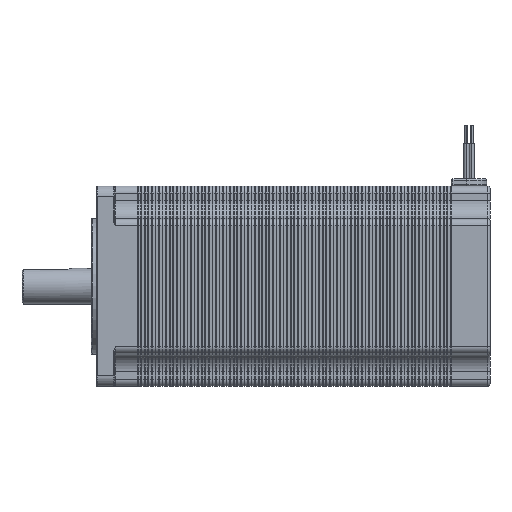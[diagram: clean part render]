
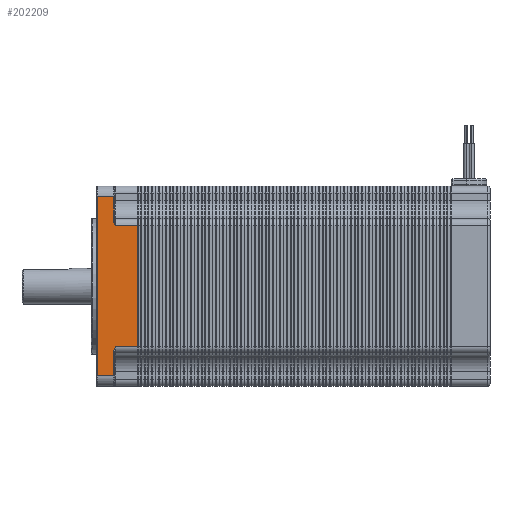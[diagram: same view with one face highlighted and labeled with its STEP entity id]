
A CAD part, left-side view. The second image highlights one B-rep face of the part: STEP entity #202209.
In plain terms, the highlighted planar face has unit normal (-1, 0, 0).
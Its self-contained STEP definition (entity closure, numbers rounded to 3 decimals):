
#913 = CARTESIAN_POINT ( 'NONE',  ( -28.15, 105.395, -17.201 ) ) ;
#925 = CARTESIAN_POINT ( 'NONE',  ( -28.15, 110.5, -17. ) ) ;
#3800 = EDGE_CURVE ( 'NONE', #151138, #277199, #98246, .T. ) ;
#4494 = VECTOR ( 'NONE', #135481, 1000. ) ;
#15551 = EDGE_LOOP ( 'NONE', ( #176855, #21113, #151258, #217544, #167272, #176024, #137371, #258294, #31913, #245938 ) ) ;
#17608 = EDGE_CURVE ( 'NONE', #166091, #71965, #167149, .T. ) ;
#17987 = CARTESIAN_POINT ( 'NONE',  ( -28.15, 110.3, -25.15 ) ) ;
#21113 = ORIENTED_EDGE ( 'NONE', *, *, #117692, .T. ) ;
#26198 = DIRECTION ( 'NONE',  ( 0., 0., 1. ) ) ;
#29123 = DIRECTION ( 'NONE',  ( 0., 1., 0. ) ) ;
#31384 = CARTESIAN_POINT ( 'NONE',  ( -28.15, 105.7, 18.265 ) ) ;
#31889 = VECTOR ( 'NONE', #187315, 1000. ) ;
#31913 = ORIENTED_EDGE ( 'NONE', *, *, #232522, .T. ) ;
#35425 = CARTESIAN_POINT ( 'NONE',  ( -28.15, 110.3, -25.15 ) ) ;
#44824 = CARTESIAN_POINT ( 'NONE',  ( -28.15, 105.3, 17. ) ) ;
#53144 = LINE ( 'NONE', #159765, #31889 ) ;
#56626 = LINE ( 'NONE', #146499, #145663 ) ;
#57079 = VECTOR ( 'NONE', #29123, 1000. ) ;
#62087 = DIRECTION ( 'NONE',  ( 0., 0., 1. ) ) ;
#69804 = CARTESIAN_POINT ( 'NONE',  ( -28.15, 105.7, 18.265 ) ) ;
#71965 = VERTEX_POINT ( 'NONE', #132776 ) ;
#92245 = CARTESIAN_POINT ( 'NONE',  ( -28.15, 105.7, -18.04 ) ) ;
#92422 = DIRECTION ( 'NONE',  ( 0., 0., -1. ) ) ;
#96186 = VERTEX_POINT ( 'NONE', #105990 ) ;
#96836 = DIRECTION ( 'NONE',  ( 1., 0., 0. ) ) ;
#98246 = LINE ( 'NONE', #273777, #258212 ) ;
#101591 = EDGE_CURVE ( 'NONE', #243100, #181336, #175595, .T. ) ;
#105990 = CARTESIAN_POINT ( 'NONE',  ( -28.15, 105.3, 17. ) ) ;
#112501 = AXIS2_PLACEMENT_3D ( 'NONE', #133759, #96836, #92422 ) ;
#117692 = EDGE_CURVE ( 'NONE', #223409, #181336, #237491, .T. ) ;
#125276 = DIRECTION ( 'NONE',  ( 0., 0., -1. ) ) ;
#129058 = CARTESIAN_POINT ( 'NONE',  ( -28.15, 99.1, -17. ) ) ;
#129754 = LINE ( 'NONE', #175618, #158802 ) ;
#131817 = CARTESIAN_POINT ( 'NONE',  ( -28.15, 105.642, 17.823 ) ) ;
#132140 = CARTESIAN_POINT ( 'NONE',  ( -28.15, 105.7, -18.265 ) ) ;
#132776 = CARTESIAN_POINT ( 'NONE',  ( -28.15, 105.3, -17. ) ) ;
#133759 = CARTESIAN_POINT ( 'NONE',  ( -28.15, 110.5, -17. ) ) ;
#135481 = DIRECTION ( 'NONE',  ( 0., 1., 0. ) ) ;
#137371 = ORIENTED_EDGE ( 'NONE', *, *, #3800, .T. ) ;
#141035 = CARTESIAN_POINT ( 'NONE',  ( -28.15, 105.5, 25.15 ) ) ;
#145663 = VECTOR ( 'NONE', #26198, 1000. ) ;
#146499 = CARTESIAN_POINT ( 'NONE',  ( -28.15, 105.7, -17. ) ) ;
#151138 = VERTEX_POINT ( 'NONE', #129058 ) ;
#151258 = ORIENTED_EDGE ( 'NONE', *, *, #101591, .F. ) ;
#158802 = VECTOR ( 'NONE', #62087, 1000. ) ;
#159548 = EDGE_CURVE ( 'NONE', #243100, #166091, #56626, .T. ) ;
#159765 = CARTESIAN_POINT ( 'NONE',  ( -28.15, 110.5, 17. ) ) ;
#161705 = DIRECTION ( 'NONE',  ( 0., 0., 1. ) ) ;
#165544 = VECTOR ( 'NONE', #180852, 1000. ) ;
#166091 = VERTEX_POINT ( 'NONE', #245045 ) ;
#167149 = B_SPLINE_CURVE_WITH_KNOTS ( 'NONE', 3,
 ( #132140, #92245, #269324, #248727, #913, #222228 ),
 .UNSPECIFIED., .F., .F.,
 ( 4, 2, 4 ),
 ( 0., 0.001, 0.001 ),
 .UNSPECIFIED. ) ;
#167272 = ORIENTED_EDGE ( 'NONE', *, *, #17608, .T. ) ;
#175595 = LINE ( 'NONE', #178464, #4494 ) ;
#175618 = CARTESIAN_POINT ( 'NONE',  ( -28.15, 105.7, -17. ) ) ;
#176024 = ORIENTED_EDGE ( 'NONE', *, *, #200480, .T. ) ;
#176855 = ORIENTED_EDGE ( 'NONE', *, *, #186906, .T. ) ;
#177613 = CARTESIAN_POINT ( 'NONE',  ( -28.15, 105.7, 18.04 ) ) ;
#178464 = CARTESIAN_POINT ( 'NONE',  ( -28.15, 105.5, -25.15 ) ) ;
#180511 = CARTESIAN_POINT ( 'NONE',  ( -28.15, 105.395, 17.202 ) ) ;
#180852 = DIRECTION ( 'NONE',  ( 0., -1., 0. ) ) ;
#181026 = FACE_OUTER_BOUND ( 'NONE', #15551, .T. ) ;
#181336 = VERTEX_POINT ( 'NONE', #17987 ) ;
#186906 = EDGE_CURVE ( 'NONE', #291127, #223409, #211858, .T. ) ;
#187315 = DIRECTION ( 'NONE',  ( 0., -1., 0. ) ) ;
#193724 = VECTOR ( 'NONE', #125276, 1000. ) ;
#197797 = EDGE_CURVE ( 'NONE', #272984, #291127, #129754, .T. ) ;
#200480 = EDGE_CURVE ( 'NONE', #71965, #151138, #242910, .T. ) ;
#202209 = ADVANCED_FACE ( 'NONE', ( #181026 ), #288645, .F. ) ;
#209774 = B_SPLINE_CURVE_WITH_KNOTS ( 'NONE', 3,
 ( #44824, #180511, #290980, #131817, #177613, #69804 ),
 .UNSPECIFIED., .F., .F.,
 ( 4, 2, 4 ),
 ( 0., 0.001, 0.001 ),
 .UNSPECIFIED. ) ;
#211858 = LINE ( 'NONE', #141035, #57079 ) ;
#217544 = ORIENTED_EDGE ( 'NONE', *, *, #159548, .T. ) ;
#222228 = CARTESIAN_POINT ( 'NONE',  ( -28.15, 105.3, -17. ) ) ;
#223409 = VERTEX_POINT ( 'NONE', #224881 ) ;
#224881 = CARTESIAN_POINT ( 'NONE',  ( -28.15, 110.3, 25.15 ) ) ;
#230524 = CARTESIAN_POINT ( 'NONE',  ( -28.15, 105.7, 25.15 ) ) ;
#232522 = EDGE_CURVE ( 'NONE', #96186, #272984, #209774, .T. ) ;
#235208 = EDGE_CURVE ( 'NONE', #96186, #277199, #53144, .T. ) ;
#237491 = LINE ( 'NONE', #35425, #193724 ) ;
#242910 = LINE ( 'NONE', #925, #165544 ) ;
#243100 = VERTEX_POINT ( 'NONE', #291837 ) ;
#245045 = CARTESIAN_POINT ( 'NONE',  ( -28.15, 105.7, -18.265 ) ) ;
#245938 = ORIENTED_EDGE ( 'NONE', *, *, #197797, .T. ) ;
#248727 = CARTESIAN_POINT ( 'NONE',  ( -28.15, 105.491, -17.403 ) ) ;
#258212 = VECTOR ( 'NONE', #161705, 1000. ) ;
#258294 = ORIENTED_EDGE ( 'NONE', *, *, #235208, .F. ) ;
#269324 = CARTESIAN_POINT ( 'NONE',  ( -28.15, 105.642, -17.823 ) ) ;
#272984 = VERTEX_POINT ( 'NONE', #31384 ) ;
#273777 = CARTESIAN_POINT ( 'NONE',  ( -28.15, 99.1, -17. ) ) ;
#273797 = CARTESIAN_POINT ( 'NONE',  ( -28.15, 99.1, 17. ) ) ;
#277199 = VERTEX_POINT ( 'NONE', #273797 ) ;
#288645 = PLANE ( 'NONE',  #112501 ) ;
#290980 = CARTESIAN_POINT ( 'NONE',  ( -28.15, 105.491, 17.403 ) ) ;
#291127 = VERTEX_POINT ( 'NONE', #230524 ) ;
#291837 = CARTESIAN_POINT ( 'NONE',  ( -28.15, 105.7, -25.15 ) ) ;
